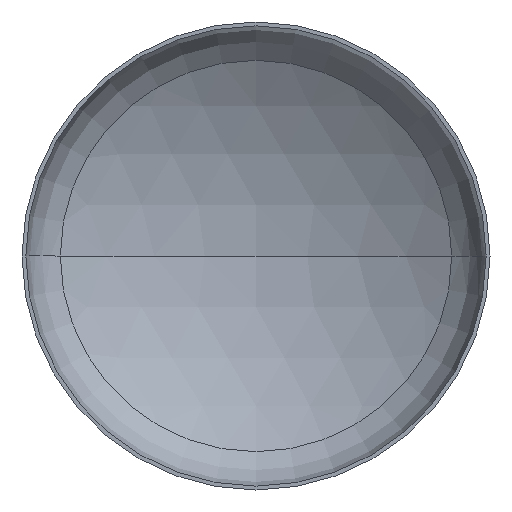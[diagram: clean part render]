
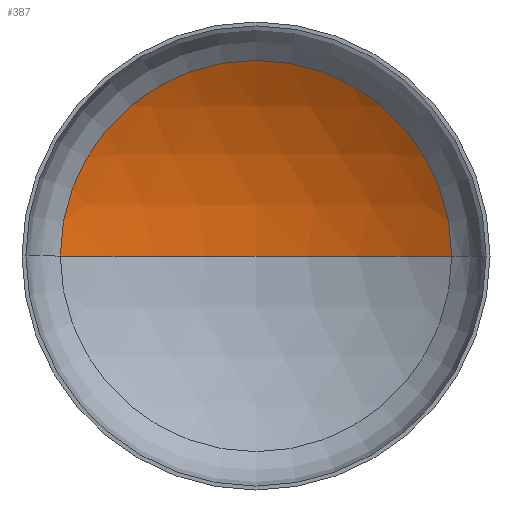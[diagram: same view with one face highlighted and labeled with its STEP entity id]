
A CAD part, front view. The second image highlights one B-rep face of the part: STEP entity #387.
In plain terms, the highlighted spherical face has radius 2880 mm.
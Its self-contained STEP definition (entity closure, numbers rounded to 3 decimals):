
#9 = EDGE_LOOP ( 'NONE', ( #114, #137, #98 ) ) ;
#12 = AXIS2_PLACEMENT_3D ( 'NONE', #141, #109, #136 ) ;
#19 = VERTEX_POINT ( 'NONE', #260 ) ;
#24 = VERTEX_POINT ( 'NONE', #258 ) ;
#28 = CARTESIAN_POINT ( 'NONE',  ( -1505.032, 563.187, 0. ) ) ;
#47 = AXIS2_PLACEMENT_3D ( 'NONE', #227, #375, #251 ) ;
#73 = DIRECTION ( 'NONE',  ( -1., 0., 0. ) ) ;
#98 = ORIENTED_EDGE ( 'NONE', *, *, #103, .T. ) ;
#103 = EDGE_CURVE ( 'NONE', #24, #128, #324, .T. ) ;
#109 = DIRECTION ( 'NONE',  ( 0., 0., -1. ) ) ;
#114 = ORIENTED_EDGE ( 'NONE', *, *, #353, .F. ) ;
#128 = VERTEX_POINT ( 'NONE', #28 ) ;
#136 = DIRECTION ( 'NONE',  ( -1., 0., 0. ) ) ;
#137 = ORIENTED_EDGE ( 'NONE', *, *, #349, .T. ) ;
#141 = CARTESIAN_POINT ( 'NONE',  ( 0., -1892.271, 0. ) ) ;
#146 = SPHERICAL_SURFACE ( 'NONE', #354, 2880. ) ;
#148 = CARTESIAN_POINT ( 'NONE',  ( 0., -1892.271, 0. ) ) ;
#152 = DIRECTION ( 'NONE',  ( 0., 0., 1. ) ) ;
#182 = DIRECTION ( 'NONE',  ( 0., 0., -1. ) ) ;
#227 = CARTESIAN_POINT ( 'NONE',  ( 0., 563.187, 0. ) ) ;
#243 = CIRCLE ( 'NONE', #12, 2880. ) ;
#251 = DIRECTION ( 'NONE',  ( 1., 0., 0. ) ) ;
#258 = CARTESIAN_POINT ( 'NONE',  ( 1505.032, 563.187, 0. ) ) ;
#260 = CARTESIAN_POINT ( 'NONE',  ( 0., 987.729, 0. ) ) ;
#268 = AXIS2_PLACEMENT_3D ( 'NONE', #148, #152, #359 ) ;
#274 = FACE_OUTER_BOUND ( 'NONE', #9, .T. ) ;
#280 = CIRCLE ( 'NONE', #268, 2880. ) ;
#324 = CIRCLE ( 'NONE', #47, 1505.032 ) ;
#349 = EDGE_CURVE ( 'NONE', #19, #24, #243, .T. ) ;
#353 = EDGE_CURVE ( 'NONE', #19, #128, #280, .T. ) ;
#354 = AXIS2_PLACEMENT_3D ( 'NONE', #379, #182, #73 ) ;
#359 = DIRECTION ( 'NONE',  ( 1., 0., 0. ) ) ;
#375 = DIRECTION ( 'NONE',  ( 0., -1., 0. ) ) ;
#379 = CARTESIAN_POINT ( 'NONE',  ( 0., -1892.271, 0. ) ) ;
#387 = ADVANCED_FACE ( 'NONE', ( #274 ), #146, .F. ) ;
